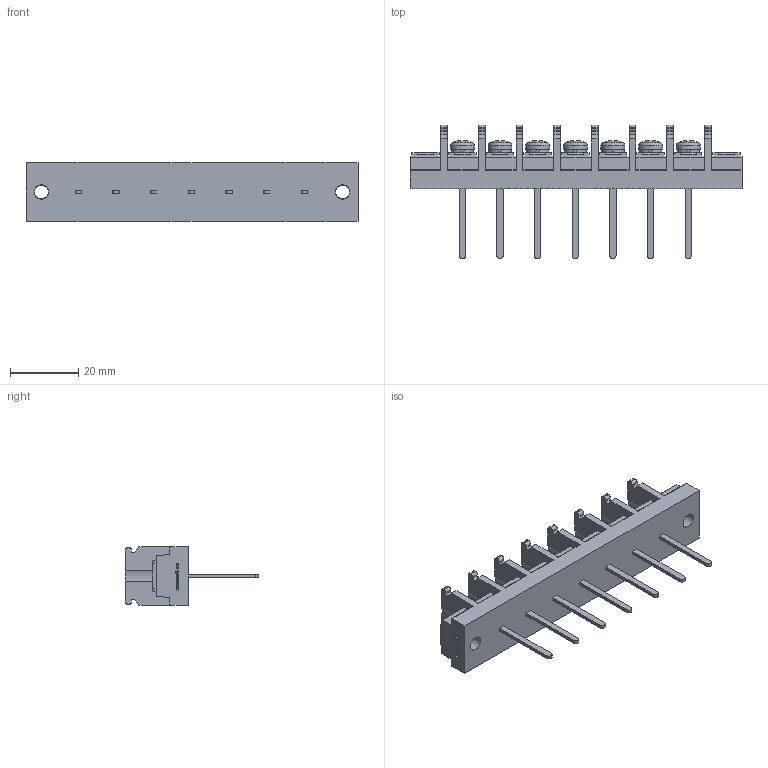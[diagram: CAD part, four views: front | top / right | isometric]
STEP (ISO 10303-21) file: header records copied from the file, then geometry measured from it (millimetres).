
FILE_DESCRIPTION(/* description */ ('Alibre Inc.'),/* implementation_level */ '2;1');
FILE_NAME(/* name */ 'export0',/* time_stamp */ '2015-10-20T07:56:08+09:00',/* author */ (''),/* organization */ (''),/* preprocessor_version */ 'ST-DEVELOPER v14',/* originating_system */ 'Alibre',/* authorisation */ '');
FILE_SCHEMA (('CONFIG_CONTROL_DESIGN'));
Length unit declared in the file: centimetre
Products named in the file (1): ID_1
Bounding box: 97 x 39 x 17 mm (x, y, z)
Volume: 17643.7 mm3; surface area: 10481.3 mm2
Topology: 1 solids, 1 shells, 969 faces, 2687 edges, 1785 vertices
Faces by surface type: plane 682, cylinder 134, bspline 104, cone 28, torus 14, sphere 7
Full cylindrical faces by diameter (mm): 4 x9, 4.2 x2, 6.5 x7, 7 x7
Entity records: 29997 total; most frequent: CARTESIAN_POINT 6496, ORIENTED_EDGE 5264, DIRECTION 3862, EDGE_CURVE 2632, VECTOR 1878, LINE 1878, VERTEX_POINT 1762, AXIS2_PLACEMENT_3D 1328
